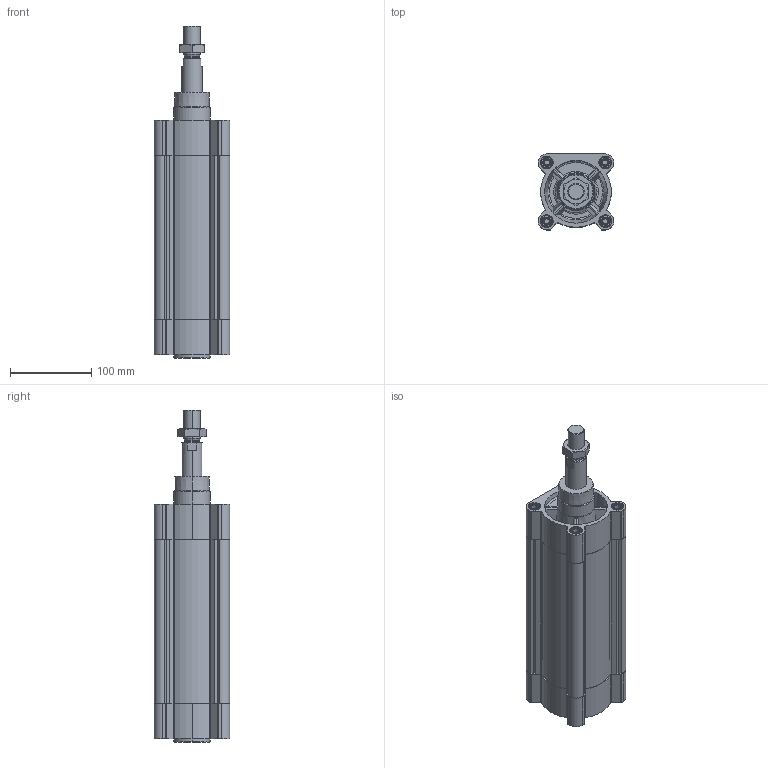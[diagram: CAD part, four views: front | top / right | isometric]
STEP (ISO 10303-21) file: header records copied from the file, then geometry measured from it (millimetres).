
FILE_DESCRIPTION (( 'STEP AP203' ), '1' );
FILE_NAME ('CPME80-160-PH30.STEP', '2023-09-21T14:57:42', ( '' ), ( '' ), 'SwSTEP 2.0', 'SolidWorks 2019', '' );
FILE_SCHEMA (( 'CONFIG_CONTROL_DESIGN' ));
Length unit declared in the file: millimetre
Products named in the file (1): CPME80-160-PH30
Bounding box: 93 x 93 x 407.6 mm (x, y, z)
Volume: 1342243.6 mm3; surface area: 301695.1 mm2
Topology: 3 solids, 3 shells, 533 faces, 1359 edges, 870 vertices
Faces by surface type: plane 207, cylinder 200, cone 98, torus 28
Entity records: 18683 total; most frequent: CARTESIAN_POINT 5639, DIRECTION 2751, ORIENTED_EDGE 2718, EDGE_CURVE 1359, AXIS2_PLACEMENT_3D 1049, VERTEX_POINT 870, VECTOR 653, LINE 653
